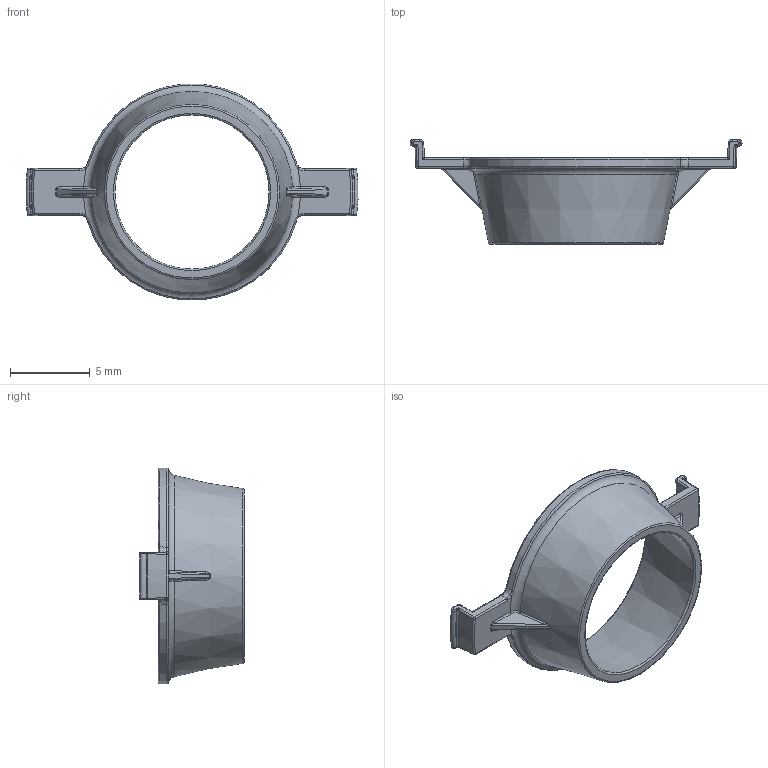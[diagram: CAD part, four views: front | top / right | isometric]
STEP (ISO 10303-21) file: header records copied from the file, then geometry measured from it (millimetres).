
FILE_DESCRIPTION(/* description */ (''),/* implementation_level */ '2;1');
FILE_NAME(/* name */ 'ARK-IR-PL-LES9.step',/* time_stamp */ '2024-10-08T10:06:22-04:00',/* author */ (''),/* organization */ (''),/* preprocessor_version */ 'ST-DEVELOPER v20',/* originating_system */ 'Autodesk Translation Framework v13.20.0.188',/* authorisation */ '');
FILE_SCHEMA (('AUTOMOTIVE_DESIGN { 1 0 10303 214 3 1 1 }'));
Length unit declared in the file: millimetre
Products named in the file (1): Inner Reflector - Snap In - LES9
Bounding box: 20.8 x 6.54 x 13.53 mm (x, y, z)
Volume: 155.9 mm3; surface area: 526.6 mm2
Topology: 1 solids, 1 shells, 141 faces, 341 edges, 194 vertices
Faces by surface type: bspline 66, cylinder 28, torus 19, plane 18, cone 6, sphere 4
Entity records: 5593 total; most frequent: CARTESIAN_POINT 2694, ORIENTED_EDGE 666, DIRECTION 494, EDGE_CURVE 333, AXIS2_PLACEMENT_3D 220, VERTEX_POINT 194, EDGE_LOOP 143, FACE_OUTER_BOUND 141
